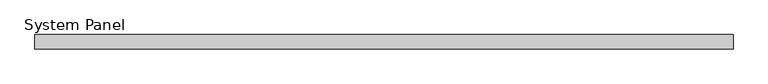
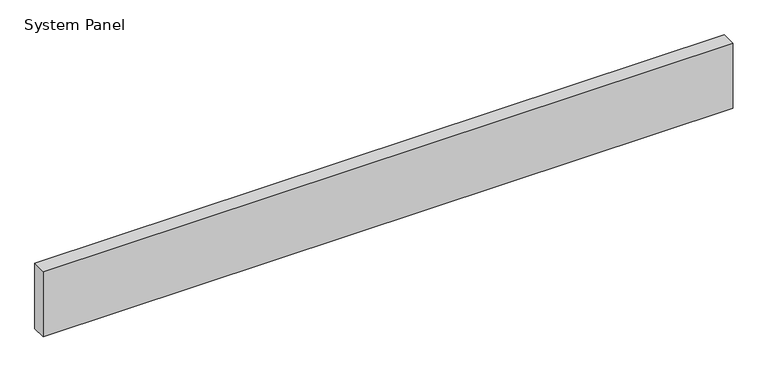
"""IFC4 building model written with IfcOpenShell, lengths in millimetres: plate geometry, System Panel : Equitilt_250mm_Plain_Surfmist."""

from ifc_helpers import new_model, si_unit, origin, origin_with_axes, place, context, project, spatial, polyline, outline, extrude, source, transform, mapped, element, save


def system_panel_702b6c4c(model_context):
    return source(origin(), model_context, "Body", "SweptSolid", [
        extrude(outline(polyline([(6000.0, 0.0), (-6000.0, 0.0), (-6000.0, 250.0), (6000.0, 250.0), (6000.0, 0.0)])), origin_with_axes(), (0.0, 0.0, 1.0), 1200.0),
    ])


if __name__ == "__main__":
    model = new_model("IFC4")
    model_context = context("Model", 3, world=origin())
    ifc_project = project(units=[si_unit("LENGTHUNIT", "METRE", prefix="MILLI")], contexts=[model_context])
    site = spatial("IfcSite", under=ifc_project)
    building = spatial("IfcBuilding", under=site)
    placement = place(None, origin())
    system_panel_shape = system_panel_702b6c4c(model_context)
    element("IfcPlate", 1, ObjectType="System Panel : Equitilt_250mm_Plain_Surfmist", at=placement, inside=building, context=model_context, shape_type="MappedRepresentation", body=[
        mapped(system_panel_shape, transform((0.0, 0.0, 0.0), x_axis=(1.0, 0.0, 0.0), y_axis=(0.0, 1.0, 0.0), z_axis=(0.0, 0.0, 1.0))),
    ])
    save(model, "model.ifc")
